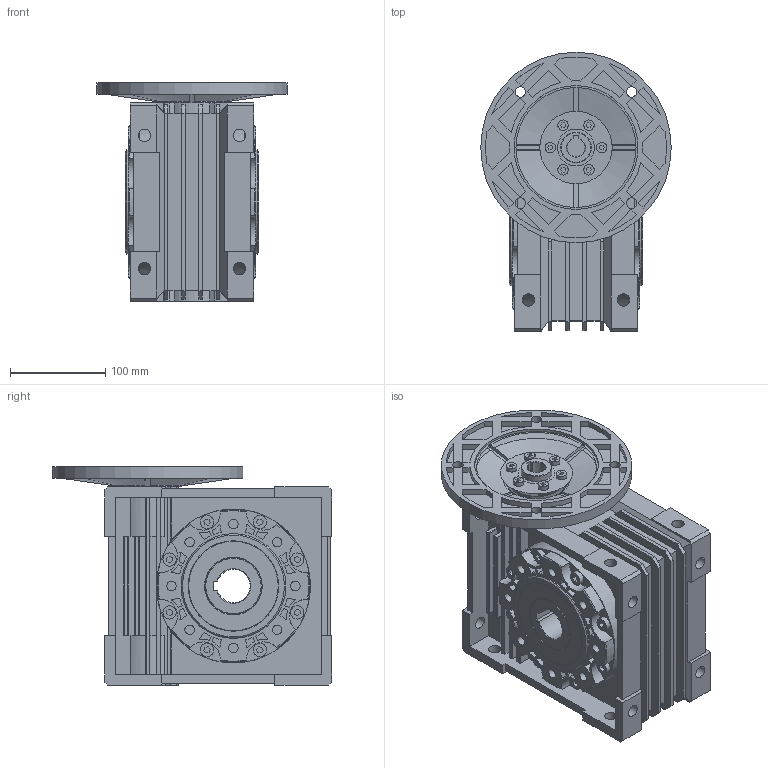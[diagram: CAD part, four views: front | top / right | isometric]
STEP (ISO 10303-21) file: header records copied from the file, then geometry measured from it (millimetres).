
FILE_DESCRIPTION(/* description */ (''),/* implementation_level */ '2;1');
FILE_NAME(/* name */ 'Z:\동력 3D 파일\PCMRV090_80B5_3D.stp',/* time_stamp */ '2021-12-01T16:49:23+09:00',/* author */ ('jaebok'),/* organization */ (''),/* preprocessor_version */ 'ST-DEVELOPER v18.1',/* originating_system */ 'Autodesk Inventor 2022',/* authorisation */ '');
FILE_SCHEMA (('AUTOMOTIVE_DESIGN { 1 0 10303 214 3 1 1 }'));
Length unit declared in the file: millimetre
Products named in the file (1): 부품53
Bounding box: 200 x 293 x 229 mm (x, y, z)
Volume: 5091901.9 mm3; surface area: 472117.1 mm2
Topology: 1 solids, 2 shells, 1013 faces, 2582 edges, 1705 vertices
Faces by surface type: plane 661, cylinder 319, cone 33
Full cylindrical faces by diameter (mm): 4.239 x8, 10 x16, 10.925 x6, 11 x4, 13 x16, 14 x16, 32.3 x1, 38.76 x1, 55.525 x2, 56.525 x2, 59.5 x2, 70 x1, 95 x2, 110 x2, 130 x1, 161.6 x2, 200 x1
Entity records: 31921 total; most frequent: CARTESIAN_POINT 5561, DIRECTION 5288, ORIENTED_EDGE 5164, EDGE_CURVE 2582, LINE 1788, VECTOR 1788, AXIS2_PLACEMENT_3D 1750, VERTEX_POINT 1705
